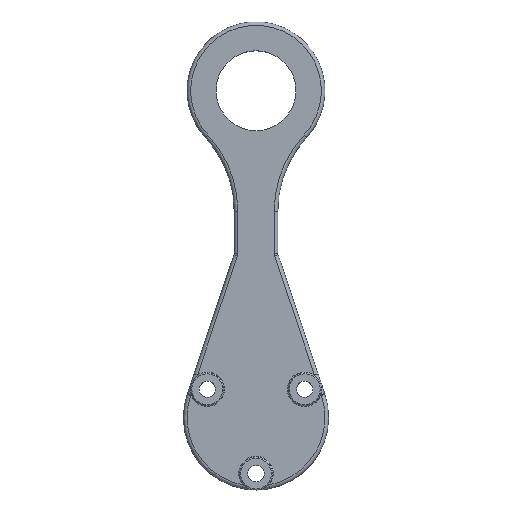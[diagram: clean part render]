
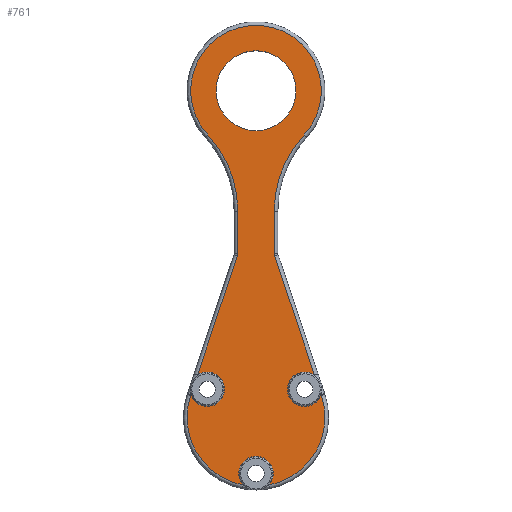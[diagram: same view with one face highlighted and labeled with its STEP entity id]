
A CAD part, top view. The second image highlights one B-rep face of the part: STEP entity #761.
In plain terms, the highlighted planar face has unit normal (0, 0, 1).
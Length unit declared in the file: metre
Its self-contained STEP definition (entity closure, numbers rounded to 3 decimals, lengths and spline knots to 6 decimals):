
#72=LINE('',#1291,#102);
#73=LINE('',#1295,#103);
#74=LINE('',#1303,#104);
#75=LINE('',#1307,#105);
#76=LINE('',#1311,#106);
#77=LINE('',#1319,#107);
#102=VECTOR('',#1001,1.);
#103=VECTOR('',#1004,1.);
#104=VECTOR('',#1011,1.);
#105=VECTOR('',#1014,1.);
#106=VECTOR('',#1017,1.);
#107=VECTOR('',#1024,1.);
#153=ORIENTED_EDGE('',*,*,#370,.T.);
#154=ORIENTED_EDGE('',*,*,#371,.T.);
#155=ORIENTED_EDGE('',*,*,#372,.T.);
#156=ORIENTED_EDGE('',*,*,#373,.T.);
#157=ORIENTED_EDGE('',*,*,#374,.T.);
#158=ORIENTED_EDGE('',*,*,#375,.T.);
#159=ORIENTED_EDGE('',*,*,#376,.T.);
#160=ORIENTED_EDGE('',*,*,#377,.T.);
#161=ORIENTED_EDGE('',*,*,#378,.T.);
#162=ORIENTED_EDGE('',*,*,#379,.T.);
#163=ORIENTED_EDGE('',*,*,#380,.T.);
#164=ORIENTED_EDGE('',*,*,#381,.T.);
#165=ORIENTED_EDGE('',*,*,#382,.T.);
#166=ORIENTED_EDGE('',*,*,#383,.T.);
#167=ORIENTED_EDGE('',*,*,#384,.T.);
#168=ORIENTED_EDGE('',*,*,#385,.T.);
#169=ORIENTED_EDGE('',*,*,#386,.F.);
#370=EDGE_CURVE('',#480,#481,#541,.F.);
#371=EDGE_CURVE('',#481,#482,#72,.F.);
#372=EDGE_CURVE('',#482,#483,#542,.F.);
#373=EDGE_CURVE('',#483,#484,#73,.T.);
#374=EDGE_CURVE('',#484,#485,#543,.F.);
#375=EDGE_CURVE('',#485,#486,#544,.T.);
#376=EDGE_CURVE('',#486,#487,#545,.F.);
#377=EDGE_CURVE('',#487,#488,#74,.F.);
#378=EDGE_CURVE('',#488,#489,#546,.F.);
#379=EDGE_CURVE('',#489,#490,#75,.T.);
#380=EDGE_CURVE('',#490,#491,#547,.F.);
#381=EDGE_CURVE('',#491,#492,#76,.T.);
#382=EDGE_CURVE('',#492,#493,#548,.T.);
#383=EDGE_CURVE('',#493,#494,#549,.F.);
#384=EDGE_CURVE('',#494,#495,#550,.T.);
#385=EDGE_CURVE('',#495,#480,#77,.F.);
#386=EDGE_CURVE('',#496,#496,#551,.T.);
#480=VERTEX_POINT('',#1289);
#481=VERTEX_POINT('',#1290);
#482=VERTEX_POINT('',#1292);
#483=VERTEX_POINT('',#1294);
#484=VERTEX_POINT('',#1296);
#485=VERTEX_POINT('',#1298);
#486=VERTEX_POINT('',#1300);
#487=VERTEX_POINT('',#1302);
#488=VERTEX_POINT('',#1304);
#489=VERTEX_POINT('',#1306);
#490=VERTEX_POINT('',#1308);
#491=VERTEX_POINT('',#1310);
#492=VERTEX_POINT('',#1312);
#493=VERTEX_POINT('',#1314);
#494=VERTEX_POINT('',#1316);
#495=VERTEX_POINT('',#1318);
#496=VERTEX_POINT('',#1321);
#541=CIRCLE('',#846,0.00475);
#542=CIRCLE('',#847,0.002);
#543=CIRCLE('',#848,0.031);
#544=CIRCLE('',#849,0.018);
#545=CIRCLE('',#850,0.031);
#546=CIRCLE('',#851,0.002);
#547=CIRCLE('',#852,0.00475);
#548=CIRCLE('',#853,0.019);
#549=CIRCLE('',#854,0.00475);
#550=CIRCLE('',#855,0.019);
#551=CIRCLE('',#856,0.011);
#609=EDGE_LOOP('',(#153,#154,#155,#156,#157,#158,#159,#160,#161,#162,#163,
#164,#165,#166,#167,#168));
#610=EDGE_LOOP('',(#169));
#684=FACE_BOUND('',#609,.T.);
#685=FACE_BOUND('',#610,.T.);
#748=PLANE('',#845);
#761=ADVANCED_FACE('',(#684,#685),#748,.T.);
#845=AXIS2_PLACEMENT_3D('',#1287,#997,#998);
#846=AXIS2_PLACEMENT_3D('',#1288,#999,#1000);
#847=AXIS2_PLACEMENT_3D('',#1293,#1002,#1003);
#848=AXIS2_PLACEMENT_3D('',#1297,#1005,#1006);
#849=AXIS2_PLACEMENT_3D('',#1299,#1007,#1008);
#850=AXIS2_PLACEMENT_3D('',#1301,#1009,#1010);
#851=AXIS2_PLACEMENT_3D('',#1305,#1012,#1013);
#852=AXIS2_PLACEMENT_3D('',#1309,#1015,#1016);
#853=AXIS2_PLACEMENT_3D('',#1313,#1018,#1019);
#854=AXIS2_PLACEMENT_3D('',#1315,#1020,#1021);
#855=AXIS2_PLACEMENT_3D('',#1317,#1022,#1023);
#856=AXIS2_PLACEMENT_3D('',#1320,#1025,#1026);
#997=DIRECTION('',(0.,0.,1.));
#998=DIRECTION('',(1.,0.,0.));
#999=DIRECTION('',(0.,0.,1.));
#1000=DIRECTION('',(1.,0.,0.));
#1001=DIRECTION('',(0.318,-0.948,0.));
#1002=DIRECTION('',(0.,0.,1.));
#1003=DIRECTION('',(1.,0.,0.));
#1004=DIRECTION('',(0.,1.,0.));
#1005=DIRECTION('',(0.,0.,1.));
#1006=DIRECTION('',(1.,0.,0.));
#1007=DIRECTION('',(0.,0.,1.));
#1008=DIRECTION('',(1.,0.,0.));
#1009=DIRECTION('',(0.,0.,1.));
#1010=DIRECTION('',(1.,0.,0.));
#1011=DIRECTION('',(0.,1.,0.));
#1012=DIRECTION('',(0.,0.,1.));
#1013=DIRECTION('',(1.,0.,0.));
#1014=DIRECTION('',(-0.318,-0.948,0.));
#1015=DIRECTION('',(0.,0.,1.));
#1016=DIRECTION('',(1.,0.,0.));
#1017=DIRECTION('',(-0.318,-0.948,0.));
#1018=DIRECTION('',(0.,0.,1.));
#1019=DIRECTION('',(1.,0.,0.));
#1020=DIRECTION('',(0.,0.,1.));
#1021=DIRECTION('',(1.,0.,0.));
#1022=DIRECTION('',(0.,0.,1.));
#1023=DIRECTION('',(1.,0.,0.));
#1024=DIRECTION('',(0.318,-0.948,0.));
#1025=DIRECTION('',(0.,0.,1.));
#1026=DIRECTION('',(1.,0.,0.));
#1287=CARTESIAN_POINT('',(0.,0.,0.010338));
#1288=CARTESIAN_POINT('',(0.013423,0.00775,0.010338));
#1289=CARTESIAN_POINT('',(0.017937,0.00627,0.010338));
#1290=CARTESIAN_POINT('',(0.016132,0.011652,0.010338));
#1291=CARTESIAN_POINT('',(0.005655,0.042885,0.010338));
#1292=CARTESIAN_POINT('',(0.005104,0.044527,0.010338));
#1293=CARTESIAN_POINT('',(0.007,0.045163,0.010338));
#1294=CARTESIAN_POINT('',(0.005,0.045163,0.010338));
#1295=CARTESIAN_POINT('',(0.005,0.,0.010338));
#1296=CARTESIAN_POINT('',(0.005,0.056758,0.010338));
#1297=CARTESIAN_POINT('',(0.036,0.056758,0.010338));
#1298=CARTESIAN_POINT('',(0.013224,0.077789,0.010338));
#1299=CARTESIAN_POINT('',(0.,0.09,0.010338));
#1300=CARTESIAN_POINT('',(-0.013224,0.077789,0.010338));
#1301=CARTESIAN_POINT('',(-0.036,0.056758,0.010338));
#1302=CARTESIAN_POINT('',(-0.005,0.056758,0.010338));
#1303=CARTESIAN_POINT('',(-0.005,0.045,0.010338));
#1304=CARTESIAN_POINT('',(-0.005,0.045163,0.010338));
#1305=CARTESIAN_POINT('',(-0.007,0.045163,0.010338));
#1306=CARTESIAN_POINT('',(-0.005104,0.044527,0.010338));
#1307=CARTESIAN_POINT('',(-0.018014,0.006043,0.010338));
#1308=CARTESIAN_POINT('',(-0.016132,0.011652,0.010338));
#1309=CARTESIAN_POINT('',(-0.013423,0.00775,0.010338));
#1310=CARTESIAN_POINT('',(-0.017937,0.00627,0.010338));
#1311=CARTESIAN_POINT('',(-0.018014,0.006043,0.010338));
#1312=CARTESIAN_POINT('',(-0.018014,0.006043,0.010338));
#1313=CARTESIAN_POINT('',(0.,0.,0.010338));
#1314=CARTESIAN_POINT('',(-0.00354,-0.018667,0.010338));
#1315=CARTESIAN_POINT('',(0.,-0.0155,0.010338));
#1316=CARTESIAN_POINT('',(0.00354,-0.018667,0.010338));
#1317=CARTESIAN_POINT('',(0.,0.,0.010338));
#1318=CARTESIAN_POINT('',(0.018014,0.006043,0.010338));
#1319=CARTESIAN_POINT('',(0.005655,0.042885,0.010338));
#1320=CARTESIAN_POINT('',(0.,0.09,0.010338));
#1321=CARTESIAN_POINT('',(0.011,0.09,0.010338));
